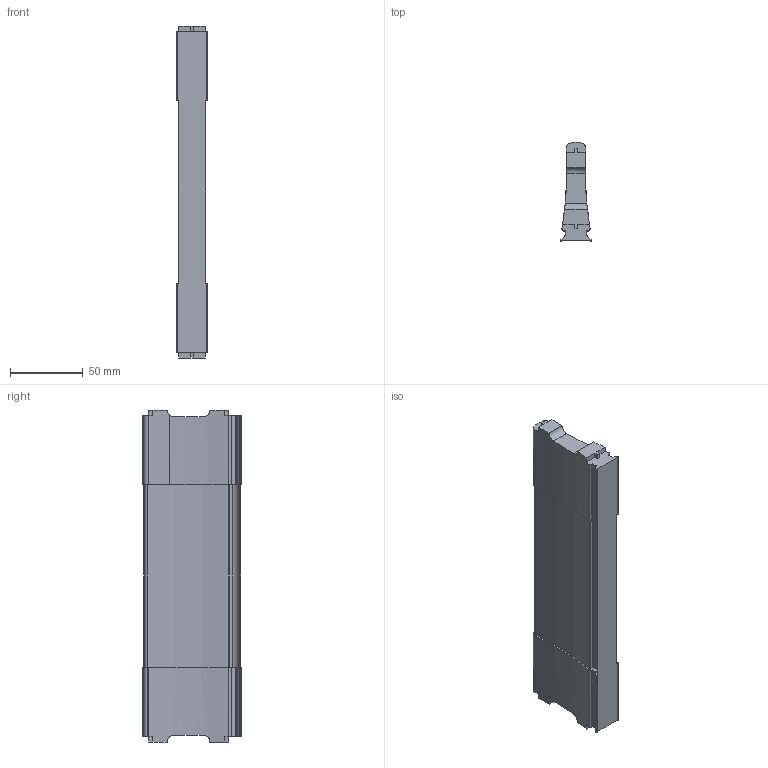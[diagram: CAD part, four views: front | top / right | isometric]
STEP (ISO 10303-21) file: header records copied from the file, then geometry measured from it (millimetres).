
FILE_DESCRIPTION (( 'STEP AP214' ), '1' );
FILE_NAME ('Traverse DWD NL250 Mass X218,4.step', '2010-09-21T13:16:32', ( 'grass' ), ( '' ), 'SwSTEP 2.0', 'SolidWorks 2010', '' );
FILE_SCHEMA (( 'AUTOMOTIVE_DESIGN' ));
Length unit declared in the file: millimetre
Products named in the file (1): Traverse DWD NL250 Mass X218,4
Bounding box: 21.4 x 67.5 x 227.4 mm (x, y, z)
Volume: 195513.2 mm3; surface area: 40699.2 mm2
Topology: 1 solids, 1 shells, 125 faces, 369 edges, 246 vertices
Faces by surface type: cylinder 68, plane 57
Entity records: 4377 total; most frequent: CARTESIAN_POINT 879, DIRECTION 753, ORIENTED_EDGE 738, EDGE_CURVE 369, AXIS2_PLACEMENT_3D 268, VERTEX_POINT 246, VECTOR 217, LINE 217
